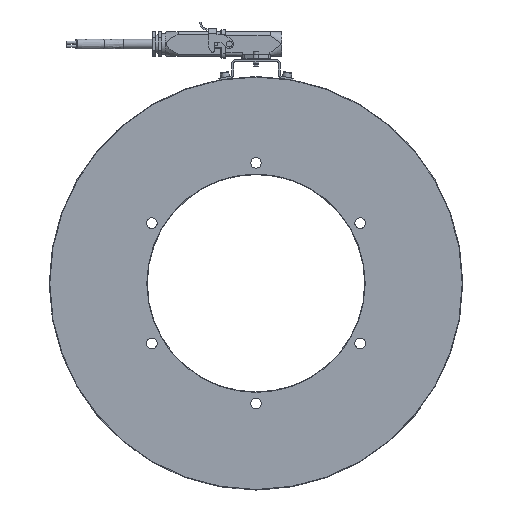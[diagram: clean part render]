
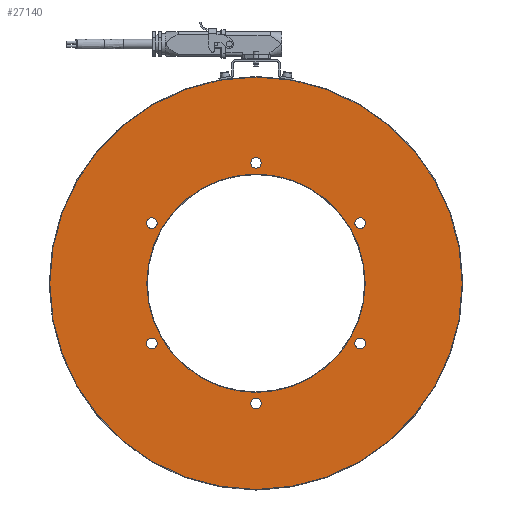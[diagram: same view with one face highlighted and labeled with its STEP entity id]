
A CAD part, left-side view. The second image highlights one B-rep face of the part: STEP entity #27140.
In plain terms, the highlighted planar face has unit normal (-1, 0, 0).
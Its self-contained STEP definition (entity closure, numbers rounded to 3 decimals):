
#414=FACE_BOUND('',#3313,.T.);
#415=FACE_BOUND('',#3314,.T.);
#416=FACE_BOUND('',#3315,.T.);
#417=FACE_BOUND('',#3316,.T.);
#418=FACE_BOUND('',#3317,.T.);
#419=FACE_BOUND('',#3318,.T.);
#420=FACE_BOUND('',#3319,.T.);
#654=PLANE('',#29433);
#1792=FACE_OUTER_BOUND('',#3312,.T.);
#3312=EDGE_LOOP('',(#19561,#19562,#19563));
#3313=EDGE_LOOP('',(#19564,#19565));
#3314=EDGE_LOOP('',(#19566,#19567));
#3315=EDGE_LOOP('',(#19568,#19569));
#3316=EDGE_LOOP('',(#19570,#19571));
#3317=EDGE_LOOP('',(#19572,#19573));
#3318=EDGE_LOOP('',(#19574,#19575));
#3319=EDGE_LOOP('',(#19576));
#9559=CIRCLE('',#28683,204.);
#9560=CIRCLE('',#28684,204.);
#10061=CIRCLE('',#29434,204.);
#10062=CIRCLE('',#29435,5.25);
#10063=CIRCLE('',#29436,5.25);
#10064=CIRCLE('',#29437,5.25);
#10065=CIRCLE('',#29438,5.25);
#10066=CIRCLE('',#29439,5.25);
#10067=CIRCLE('',#29440,5.25);
#10068=CIRCLE('',#29441,5.25);
#10069=CIRCLE('',#29442,5.25);
#10070=CIRCLE('',#29443,5.25);
#10071=CIRCLE('',#29444,5.25);
#10072=CIRCLE('',#29445,5.25);
#10073=CIRCLE('',#29446,5.25);
#10074=CIRCLE('',#29447,108.);
#10896=VERTEX_POINT('',#39762);
#10903=VERTEX_POINT('',#39776);
#10904=VERTEX_POINT('',#39778);
#11441=VERTEX_POINT('',#41621);
#11442=VERTEX_POINT('',#41622);
#11443=VERTEX_POINT('',#41625);
#11444=VERTEX_POINT('',#41626);
#11445=VERTEX_POINT('',#41629);
#11446=VERTEX_POINT('',#41630);
#11447=VERTEX_POINT('',#41633);
#11448=VERTEX_POINT('',#41634);
#11449=VERTEX_POINT('',#41637);
#11450=VERTEX_POINT('',#41638);
#11451=VERTEX_POINT('',#41641);
#11452=VERTEX_POINT('',#41642);
#11453=VERTEX_POINT('',#41645);
#13657=EDGE_CURVE('',#10904,#10903,#9559,.T.);
#13658=EDGE_CURVE('',#10896,#10904,#9560,.T.);
#14465=EDGE_CURVE('',#10903,#10896,#10061,.T.);
#14466=EDGE_CURVE('',#11441,#11442,#10062,.T.);
#14467=EDGE_CURVE('',#11442,#11441,#10063,.T.);
#14468=EDGE_CURVE('',#11443,#11444,#10064,.T.);
#14469=EDGE_CURVE('',#11444,#11443,#10065,.T.);
#14470=EDGE_CURVE('',#11445,#11446,#10066,.T.);
#14471=EDGE_CURVE('',#11446,#11445,#10067,.T.);
#14472=EDGE_CURVE('',#11447,#11448,#10068,.T.);
#14473=EDGE_CURVE('',#11448,#11447,#10069,.T.);
#14474=EDGE_CURVE('',#11449,#11450,#10070,.T.);
#14475=EDGE_CURVE('',#11450,#11449,#10071,.T.);
#14476=EDGE_CURVE('',#11451,#11452,#10072,.T.);
#14477=EDGE_CURVE('',#11452,#11451,#10073,.T.);
#14478=EDGE_CURVE('',#11453,#11453,#10074,.T.);
#19561=ORIENTED_EDGE('',*,*,#13657,.T.);
#19562=ORIENTED_EDGE('',*,*,#14465,.T.);
#19563=ORIENTED_EDGE('',*,*,#13658,.T.);
#19564=ORIENTED_EDGE('',*,*,#14466,.T.);
#19565=ORIENTED_EDGE('',*,*,#14467,.T.);
#19566=ORIENTED_EDGE('',*,*,#14468,.T.);
#19567=ORIENTED_EDGE('',*,*,#14469,.T.);
#19568=ORIENTED_EDGE('',*,*,#14470,.T.);
#19569=ORIENTED_EDGE('',*,*,#14471,.T.);
#19570=ORIENTED_EDGE('',*,*,#14472,.T.);
#19571=ORIENTED_EDGE('',*,*,#14473,.T.);
#19572=ORIENTED_EDGE('',*,*,#14474,.T.);
#19573=ORIENTED_EDGE('',*,*,#14475,.T.);
#19574=ORIENTED_EDGE('',*,*,#14476,.T.);
#19575=ORIENTED_EDGE('',*,*,#14477,.T.);
#19576=ORIENTED_EDGE('',*,*,#14478,.F.);
#27140=ADVANCED_FACE('',(#1792,#414,#415,#416,#417,#418,#419,#420),#654,
 .T.);
#28683=AXIS2_PLACEMENT_3D('',#39779,#32103,#32104);
#28684=AXIS2_PLACEMENT_3D('',#39780,#32105,#32106);
#29433=AXIS2_PLACEMENT_3D('',#41619,#33869,#33870);
#29434=AXIS2_PLACEMENT_3D('',#41620,#33871,#33872);
#29435=AXIS2_PLACEMENT_3D('',#41623,#33873,#33874);
#29436=AXIS2_PLACEMENT_3D('',#41624,#33875,#33876);
#29437=AXIS2_PLACEMENT_3D('',#41627,#33877,#33878);
#29438=AXIS2_PLACEMENT_3D('',#41628,#33879,#33880);
#29439=AXIS2_PLACEMENT_3D('',#41631,#33881,#33882);
#29440=AXIS2_PLACEMENT_3D('',#41632,#33883,#33884);
#29441=AXIS2_PLACEMENT_3D('',#41635,#33885,#33886);
#29442=AXIS2_PLACEMENT_3D('',#41636,#33887,#33888);
#29443=AXIS2_PLACEMENT_3D('',#41639,#33889,#33890);
#29444=AXIS2_PLACEMENT_3D('',#41640,#33891,#33892);
#29445=AXIS2_PLACEMENT_3D('',#41643,#33893,#33894);
#29446=AXIS2_PLACEMENT_3D('',#41644,#33895,#33896);
#29447=AXIS2_PLACEMENT_3D('',#41646,#33897,#33898);
#32103=DIRECTION('center_axis',(-1.,0.,0.));
#32104=DIRECTION('ref_axis',(0.,1.,0.));
#32105=DIRECTION('center_axis',(-1.,0.,0.));
#32106=DIRECTION('ref_axis',(0.,1.,0.));
#33869=DIRECTION('center_axis',(-1.,0.,0.));
#33870=DIRECTION('ref_axis',(0.,0.,
1.));
#33871=DIRECTION('center_axis',(-1.,0.,0.));
#33872=DIRECTION('ref_axis',(0.,1.,0.));
#33873=DIRECTION('center_axis',(1.,0.,0.));
#33874=DIRECTION('ref_axis',(0.,1.,0.));
#33875=DIRECTION('center_axis',(1.,0.,0.));
#33876=DIRECTION('ref_axis',(0.,1.,0.));
#33877=DIRECTION('center_axis',(1.,0.,0.));
#33878=DIRECTION('ref_axis',(0.,1.,0.));
#33879=DIRECTION('center_axis',(1.,0.,0.));
#33880=DIRECTION('ref_axis',(0.,1.,0.));
#33881=DIRECTION('center_axis',(1.,0.,0.));
#33882=DIRECTION('ref_axis',(0.,1.,0.));
#33883=DIRECTION('center_axis',(1.,0.,0.));
#33884=DIRECTION('ref_axis',(0.,1.,0.));
#33885=DIRECTION('center_axis',(1.,0.,0.));
#33886=DIRECTION('ref_axis',(0.,1.,0.));
#33887=DIRECTION('center_axis',(1.,0.,0.));
#33888=DIRECTION('ref_axis',(0.,1.,0.));
#33889=DIRECTION('center_axis',(1.,0.,0.));
#33890=DIRECTION('ref_axis',(0.,1.,0.));
#33891=DIRECTION('center_axis',(1.,0.,0.));
#33892=DIRECTION('ref_axis',(0.,1.,0.));
#33893=DIRECTION('center_axis',(1.,0.,0.));
#33894=DIRECTION('ref_axis',(0.,1.,0.));
#33895=DIRECTION('center_axis',(1.,0.,0.));
#33896=DIRECTION('ref_axis',(0.,1.,0.));
#33897=DIRECTION('center_axis',(-1.,0.,0.));
#33898=DIRECTION('ref_axis',(0.,-1.,0.));
#39762=CARTESIAN_POINT('',(-25.65,35.424,200.901));
#39776=CARTESIAN_POINT('',(-25.65,-204.,0.));
#39778=CARTESIAN_POINT('',(-25.65,204.,0.));
#39779=CARTESIAN_POINT('Origin',(-25.65,0.,
0.));
#39780=CARTESIAN_POINT('Origin',(-25.65,0.,
0.));
#41619=CARTESIAN_POINT('Origin',(-25.65,155.75,0.));
#41620=CARTESIAN_POINT('Origin',(-25.65,0.,
0.));
#41621=CARTESIAN_POINT('',(-25.65,-97.807,-59.5));
#41622=CARTESIAN_POINT('',(-25.65,-108.307,-59.5));
#41623=CARTESIAN_POINT('Origin',(-25.65,-103.057,-59.5));
#41624=CARTESIAN_POINT('Origin',(-25.65,-103.057,-59.5));
#41625=CARTESIAN_POINT('',(-25.65,108.307,-59.5));
#41626=CARTESIAN_POINT('',(-25.65,97.807,-59.5));
#41627=CARTESIAN_POINT('Origin',(-25.65,103.057,-59.5));
#41628=CARTESIAN_POINT('Origin',(-25.65,103.057,-59.5));
#41629=CARTESIAN_POINT('',(-25.65,5.25,119.));
#41630=CARTESIAN_POINT('',(-25.65,-5.25,119.));
#41631=CARTESIAN_POINT('Origin',(-25.65,0.,119.));
#41632=CARTESIAN_POINT('Origin',(-25.65,0.,119.));
#41633=CARTESIAN_POINT('',(-25.65,108.307,59.5));
#41634=CARTESIAN_POINT('',(-25.65,97.807,59.5));
#41635=CARTESIAN_POINT('Origin',(-25.65,103.057,59.5));
#41636=CARTESIAN_POINT('Origin',(-25.65,103.057,59.5));
#41637=CARTESIAN_POINT('',(-25.65,5.25,-119.));
#41638=CARTESIAN_POINT('',(-25.65,-5.25,-119.));
#41639=CARTESIAN_POINT('Origin',(-25.65,0.,-119.));
#41640=CARTESIAN_POINT('Origin',(-25.65,0.,-119.));
#41641=CARTESIAN_POINT('',(-25.65,-97.807,59.5));
#41642=CARTESIAN_POINT('',(-25.65,-108.307,59.5));
#41643=CARTESIAN_POINT('Origin',(-25.65,-103.057,59.5));
#41644=CARTESIAN_POINT('Origin',(-25.65,-103.057,59.5));
#41645=CARTESIAN_POINT('',(-25.65,108.,0.));
#41646=CARTESIAN_POINT('Origin',(-25.65,0.,0.));
